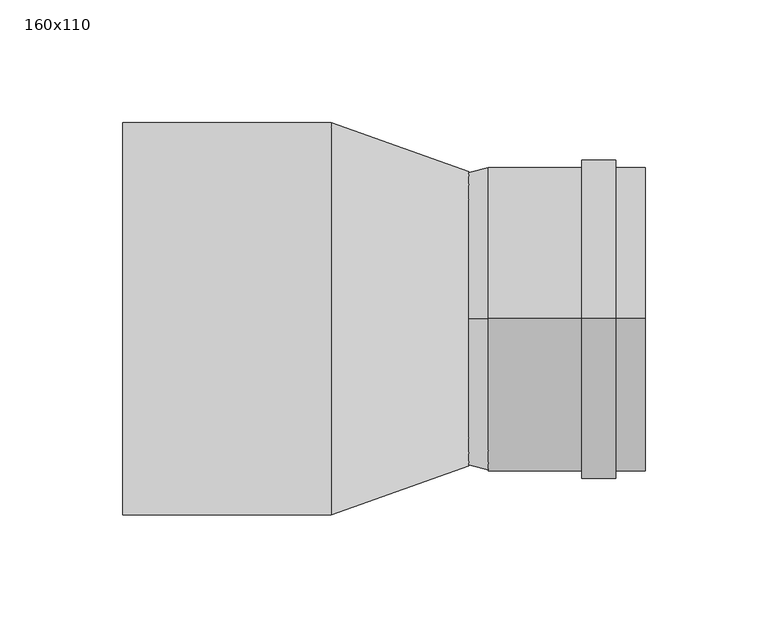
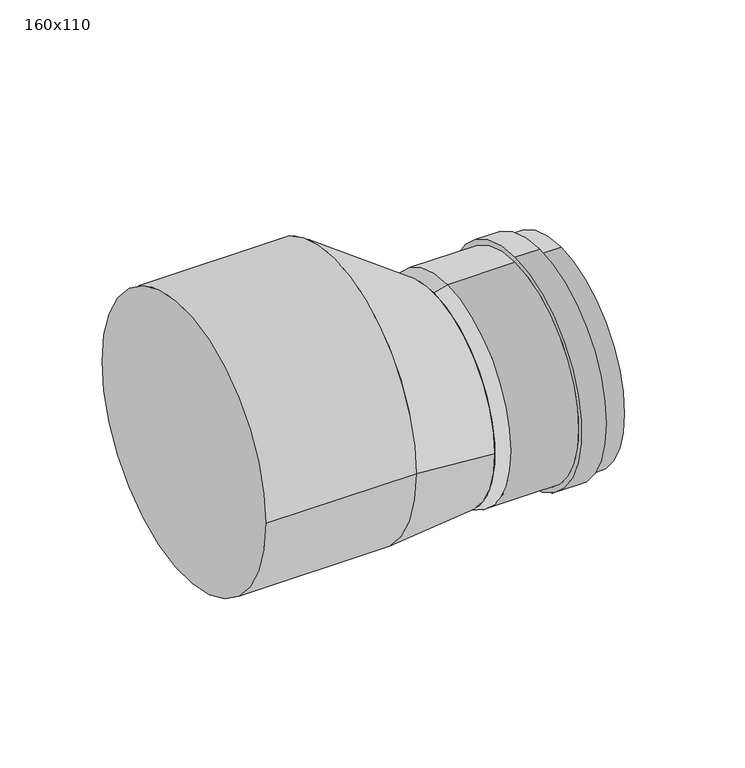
"""IFC4 building model written with IfcOpenShell, lengths in millimetres: pipe fitting geometry, Pipelife - PVC-U - Redukcja kanalizacyjna SDR34 SILVER LOCK_studnia : 160x110."""

from ifc_helpers import new_model, si_unit, point, frame, origin, origin_2d, place, context, project, spatial, polyline, circle_curve, trimmed, segment, composite_curve, outline, extrude, source, transform, mapped, element, save
from ifc_brep_helpers import plane_surface, cylinder_surface, revolved_surface, spline_surface, advanced_brep


def pipe_fitting_160x110_0f95f1a0(model_context):
    return source(origin(), model_context, "Body", "SolidModel", [
        extrude(outline(composite_curve([segment(trimmed(circle_curve(origin_2d(), 80.0), [point((80.0, 0.0))], [point((-80.0, 0.0))], False, "CARTESIAN"), True, "CONTINUOUS"), segment(trimmed(circle_curve(origin_2d(), 80.0), [point((-80.0, 0.0))], [point((80.0, 0.0))], False, "CARTESIAN"), True, "CONTINUOUS")], self_intersect=False)), frame((-113.0, 0.0, 0.0), z_axis=(1.0, 0.0, 0.0), x_axis=(0.0, 1.0, 0.0)), (0.0, 0.0, 1.0), 85.0),
        advanced_brep(
        [(100.0, 0.0, -82.0), (100.0, 0.0, 42.0), (100.0, 0.0, -77.5), (100.0, 0.0, 37.5), (88.0, 0.0, 42.0), (88.0, 0.0, -82.0), (36.0, 0.0, -82.0), (74.0, 0.0, -82.0), (74.0, 0.0, 42.0), (36.0, 0.0, 42.0), (36.0, 0.0, 37.5), (36.0, 0.0, -77.5), (74.0, 0.0, -85.0), (74.0, 0.0, 45.0), (88.0, 0.0, -85.0), (88.0, 0.0, 45.0), (28.0, 0.0, -80.0), (28.0, 0.0, 40.0)],
        [
            (0, 1, circle_curve(frame((100.0, 0.0, -20.0), z_axis=(1.0, 0.0, 0.0), x_axis=(0.0, 0.0, 1.0)), 62.0)),
            (1, 0, circle_curve(frame((100.0, 0.0, -20.0), z_axis=(1.0, 0.0, 0.0), x_axis=(0.0, 0.0, 1.0)), 62.0)),
            (2, 3, circle_curve(frame((100.0, 0.0, -20.0), z_axis=(-1.0, 0.0, 0.0), x_axis=(0.0, 0.0, 1.0)), 57.5)),
            (3, 2, circle_curve(frame((100.0, 0.0, -20.0), z_axis=(-1.0, 0.0, 0.0), x_axis=(0.0, 0.0, 1.0)), 57.5)),
            (1, 4),
            (4, 5, circle_curve(frame((88.0, 0.0, -20.0), z_axis=(1.0, 0.0, 0.0), x_axis=(0.0, 0.0, 1.0)), 62.0)),
            (5, 0),
            (6, 7),
            (7, 8, circle_curve(frame((74.0, 0.0, -20.0), z_axis=(-1.0, 0.0, 0.0), x_axis=(0.0, 0.0, 1.0)), 62.0)),
            (8, 9),
            (9, 6, circle_curve(frame((36.0, 0.0, -20.0), z_axis=(1.0, 0.0, 0.0), x_axis=(0.0, 0.0, 1.0)), 62.0)),
            (5, 4, circle_curve(frame((88.0, 0.0, -20.0), z_axis=(1.0, 0.0, 0.0), x_axis=(0.0, 0.0, 1.0)), 62.0)),
            (6, 9, circle_curve(frame((36.0, 0.0, -20.0), z_axis=(1.0, 0.0, 0.0), x_axis=(0.0, 0.0, 1.0)), 62.0)),
            (8, 7, circle_curve(frame((74.0, 0.0, -20.0), z_axis=(-1.0, 0.0, 0.0), x_axis=(0.0, 0.0, 1.0)), 62.0)),
            (10, 3),
            (2, 11),
            (11, 10, circle_curve(frame((36.0, 0.0, -20.0), z_axis=(-1.0, 0.0, 0.0), x_axis=(0.0, 0.0, 1.0)), 57.5)),
            (10, 11, circle_curve(frame((36.0, 0.0, -20.0), z_axis=(-1.0, 0.0, 0.0), x_axis=(0.0, 0.0, 1.0)), 57.5)),
            (12, 13, circle_curve(frame((74.0, 0.0, -20.0), z_axis=(-1.0, 0.0, 0.0), x_axis=(0.0, 0.0, 1.0)), 65.0)),
            (13, 12, circle_curve(frame((74.0, 0.0, -20.0), z_axis=(-1.0, 0.0, 0.0), x_axis=(0.0, 0.0, 1.0)), 65.0)),
            (14, 15, circle_curve(frame((88.0, 0.0, -20.0), z_axis=(1.0, 0.0, 0.0), x_axis=(0.0, 0.0, 1.0)), 65.0)),
            (15, 14, circle_curve(frame((88.0, 0.0, -20.0), z_axis=(1.0, 0.0, 0.0), x_axis=(0.0, 0.0, 1.0)), 65.0)),
            (12, 14),
            (15, 13),
            (16, 17, circle_curve(frame((28.0, 0.0, -20.0), z_axis=(-1.0, 0.0, 0.0), x_axis=(0.0, 0.0, 1.0)), 60.0)),
            (17, 16, circle_curve(frame((28.0, 0.0, -20.0), z_axis=(-1.0, 0.0, 0.0), x_axis=(0.0, 0.0, -1.0)), 60.0)),
            (17, 9),
            (6, 16),
        ],
        [
            plane_surface(frame((100.0, 0.0, -20.0), z_axis=(1.0, 0.0, 0.0), x_axis=(0.0, -1.0, 0.0))),
            cylinder_surface(frame((36.0, 0.0, -20.0), z_axis=(-1.0, 0.0, 0.0), x_axis=(0.0, 0.0, 1.0)), 62.0),
            revolved_surface(polyline([(36.0, 0.0, 37.5), (100.0, 0.0, 37.5)]), (36.0, 0.0, -20.0), (-1.0, 0.0, 0.0)),
            plane_surface(frame((74.0, 0.0, -20.0), z_axis=(-1.0, 0.0, 0.0), x_axis=(0.0, -1.0, 0.0))),
            plane_surface(frame((88.0, 0.0, -20.0), z_axis=(1.0, 0.0, 0.0), x_axis=(0.0, -1.0, 0.0))),
            cylinder_surface(frame((74.0, 0.0, -20.0), z_axis=(-1.0, 0.0, 0.0), x_axis=(0.0, 0.0, 1.0)), 65.0),
            plane_surface(frame((36.0, 0.0, -20.0), z_axis=(1.0, 0.0, 0.0), x_axis=(0.0, 1.0, 0.0))),
            plane_surface(frame((28.0, 0.0, -20.0), z_axis=(-1.0, 0.0, 0.0), x_axis=(0.0, 1.0, 0.0))),
            revolved_surface(polyline([(28.0, 0.0, 40.0), (36.0, 0.0, 42.0)]), (-212.0, 0.0, -20.0), (1.0, 0.0, 0.0)),
            revolved_surface(polyline([(28.0, 0.0, -80.0), (36.0, 0.0, -82.0)]), (-212.0, 0.0, -20.0), (1.0, 0.0, 0.0)),
        ],
        [
            (0, [[1, 2], [3, 4]]),
            (1, [[-2, 5, 6, 7]]),
            (1, [[8, 9, 10, 11]]),
            (1, [[-1, -7, 12, -5]]),
            (1, [[-8, 13, -10, 14]]),
            (2, [[15, -3, 16, 17]]),
            (2, [[-15, 18, -16, -4]]),
            (3, [[19, 20], [-9, -14]]),
            (4, [[21, 22], [-6, -12]]),
            (5, [[-19, 23, -22, 24]]),
            (5, [[-20, -24, -21, -23]]),
            (6, [[-17, -18]]),
            (7, [[25, 26]]),
            (8, [[-26, 27, -13, 28]]),
            (9, [[-25, -28, -11, -27]]),
        ],
    ),
        advanced_brep(
        [(28.0, -60.0, -20.0), (28.0, 60.0, -20.0), (-28.0, -80.0, 0.0), (-28.0, 80.0, 0.0)],
        [
            (0, 1, circle_curve(frame((28.0, 0.0, -20.0), z_axis=(1.0, 0.0, 0.0), x_axis=(0.0, 1.0, 0.0)), 60.0)),
            (1, 0, circle_curve(frame((28.0, 0.0, -20.0), z_axis=(1.0, 0.0, 0.0), x_axis=(0.0, 1.0, 0.0)), 60.0)),
            (2, 3, circle_curve(frame((-28.0, 0.0, 0.0), z_axis=(-1.0, 0.0, 0.0), x_axis=(0.0, 1.0, 0.0)), 80.0)),
            (3, 2, circle_curve(frame((-28.0, 0.0, 0.0), z_axis=(-1.0, 0.0, 0.0), x_axis=(0.0, 1.0, 0.0)), 80.0)),
            (3, 1),
            (0, 2),
        ],
        [
            plane_surface(frame((28.0, 0.0, -20.0), z_axis=(1.0, 0.0, 0.0), x_axis=(0.0, 0.0, -1.0))),
            plane_surface(frame((-28.0, 0.0, 0.0), z_axis=(-1.0, 0.0, 0.0), x_axis=(0.0, 0.0, -1.0))),
            spline_surface(2, 1, [[(-28.0, -80.0, 0.0), (28.0, -60.0, -20.0)], [(-28.0, -80.0, -80.0), (28.0, -60.0, -80.0)], [(-28.0, 0.0, -80.0), (28.0, 0.0, -80.0)], [(-28.0, 80.0, -80.0), (28.0, 60.0, -80.0)], [(-28.0, 80.0, 0.0), (28.0, 60.0, -20.0)]], [3, 2, 3], [2, 2], [0.0, 1.0, 2.0], [0.0, 1.0], weights=[[1.0, 1.0], [0.7071067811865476, 0.7071067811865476], [1.0, 1.0], [0.7071067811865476, 0.7071067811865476], [1.0, 1.0]]),
            spline_surface(2, 1, [[(-28.0, 80.0, 0.0), (28.0, 60.0, -20.0)], [(-28.0, 80.0, 80.0), (28.0, 60.0, 40.0)], [(-28.0, 0.0, 80.0), (28.0, 0.0, 40.0)], [(-28.0, -80.0, 80.0), (28.0, -60.0, 40.0)], [(-28.0, -80.0, 0.0), (28.0, -60.0, -20.0)]], [3, 2, 3], [2, 2], [0.0, 1.0, 2.0], [0.0, 1.0], weights=[[1.0, 1.0], [0.7071067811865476, 0.7071067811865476], [1.0, 1.0], [0.7071067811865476, 0.7071067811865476], [1.0, 1.0]]),
        ],
        [
            (0, [[1, 2]]),
            (1, [[3, 4]]),
            (2, [[-4, 5, -1, 6]]),
            (3, [[-3, -6, -2, -5]]),
        ],
    ),
    ])


if __name__ == "__main__":
    model = new_model("IFC4")
    model_context = context("Model", 3, world=origin())
    ifc_project = project(units=[si_unit("LENGTHUNIT", "METRE", prefix="MILLI")], contexts=[model_context])
    site = spatial("IfcSite", under=ifc_project)
    building = spatial("IfcBuilding", under=site)
    placement = place(None, origin())
    pipe_fitting_160x110_shape = pipe_fitting_160x110_0f95f1a0(model_context)
    element("IfcPipeFitting", 1, ObjectType="Pipelife - PVC-U - Redukcja kanalizacyjna SDR34 SILVER LOCK_studnia : 160x110", at=placement, inside=building, context=model_context, shape_type="MappedRepresentation", body=[
        mapped(pipe_fitting_160x110_shape, transform((0.0, 0.0, 0.0), x_axis=(1.0, 0.0, 0.0), y_axis=(0.0, 1.0, 0.0), z_axis=(0.0, 0.0, 1.0))),
    ])
    save(model, "model.ifc")
